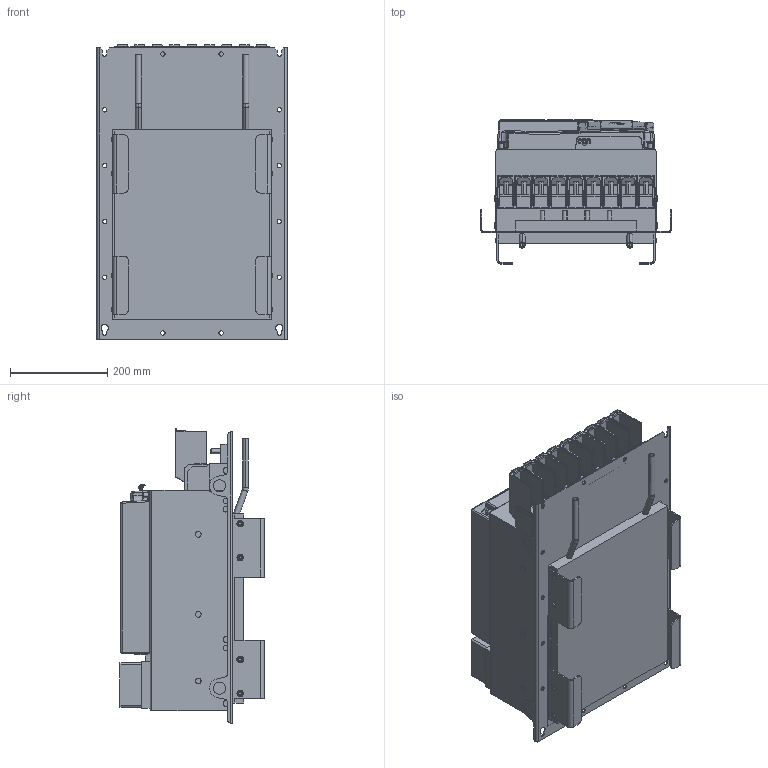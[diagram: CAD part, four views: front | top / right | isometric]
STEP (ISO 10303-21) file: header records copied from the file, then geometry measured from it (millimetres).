
FILE_DESCRIPTION (( 'STEP AP214' ), '1' );
FILE_NAME ('10060971_000.STEP', '2021-03-02T13:40:52', ( '' ), ( '' ), 'SwSTEP 2.0', 'SolidWorks 2019', '' );
FILE_SCHEMA (( 'AUTOMOTIVE_DESIGN' ));
Length unit declared in the file: millimetre
Products named in the file (13): 10059762_000_Kundenmodell mit Geberbuchsen; 10061504_000_Gehеsebaugruppe ohne L’terkarte; 10061502_000_Deckel (Kundenmodell); 10059765_000; 10051076_000_Kundenmodell; 10060970_000_Leistungsteil F6-7 TW5 (Kundenmodell); 10061523_000; 10060971_000; 10043622_000_70F6 Klemme (Kundenmodell); 10045475_000_Geh„usebaugruppe F6-7 (Kundenmodell); 10059764_000_Blindabdeckung (Kundenmodell); 10061503_000; 10061522_000
Assembly tree (12 placements, depth 4):
  10060971_000
    10060970_000_Leistungsteil F6-7 TW5 (Kundenmodell)
      10043622_000_70F6 Klemme (Kundenmodell)
        10061522_000
      10061523_000
    10045475_000_Geh„usebaugruppe F6-7 (Kundenmodell)
      10061502_000_Deckel (Kundenmodell)
        10061503_000
      10061504_000_Gehеsebaugruppe ohne L’terkarte
    10051076_000_Kundenmodell
      10059764_000_Blindabdeckung (Kundenmodell)
        10059765_000
      10059762_000_Kundenmodell mit Geberbuchsen
Bounding box: 392 x 296.9 x 606.26 mm (x, y, z)
Volume: 40008045.9 mm3; surface area: 2110668.9 mm2
Topology: 12 solids, 12 shells, 3117 faces, 7993 edges, 4905 vertices
Faces by surface type: plane 1572, cylinder 944, bspline 278, sphere 172, torus 89, cone 62
Entity records: 100768 total; most frequent: CARTESIAN_POINT 27215, ORIENTED_EDGE 15764, DIRECTION 14493, EDGE_CURVE 7882, VECTOR 5007, LINE 5007, VERTEX_POINT 4902, AXIS2_PLACEMENT_3D 4743
